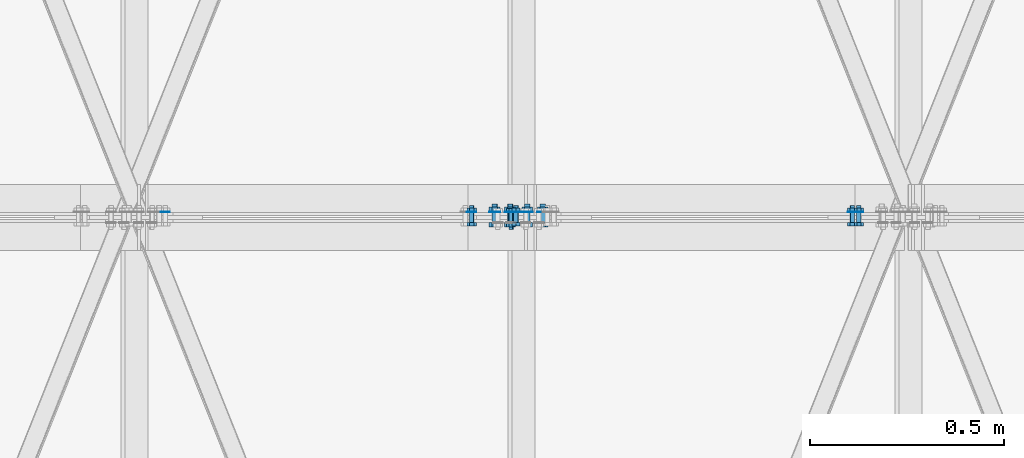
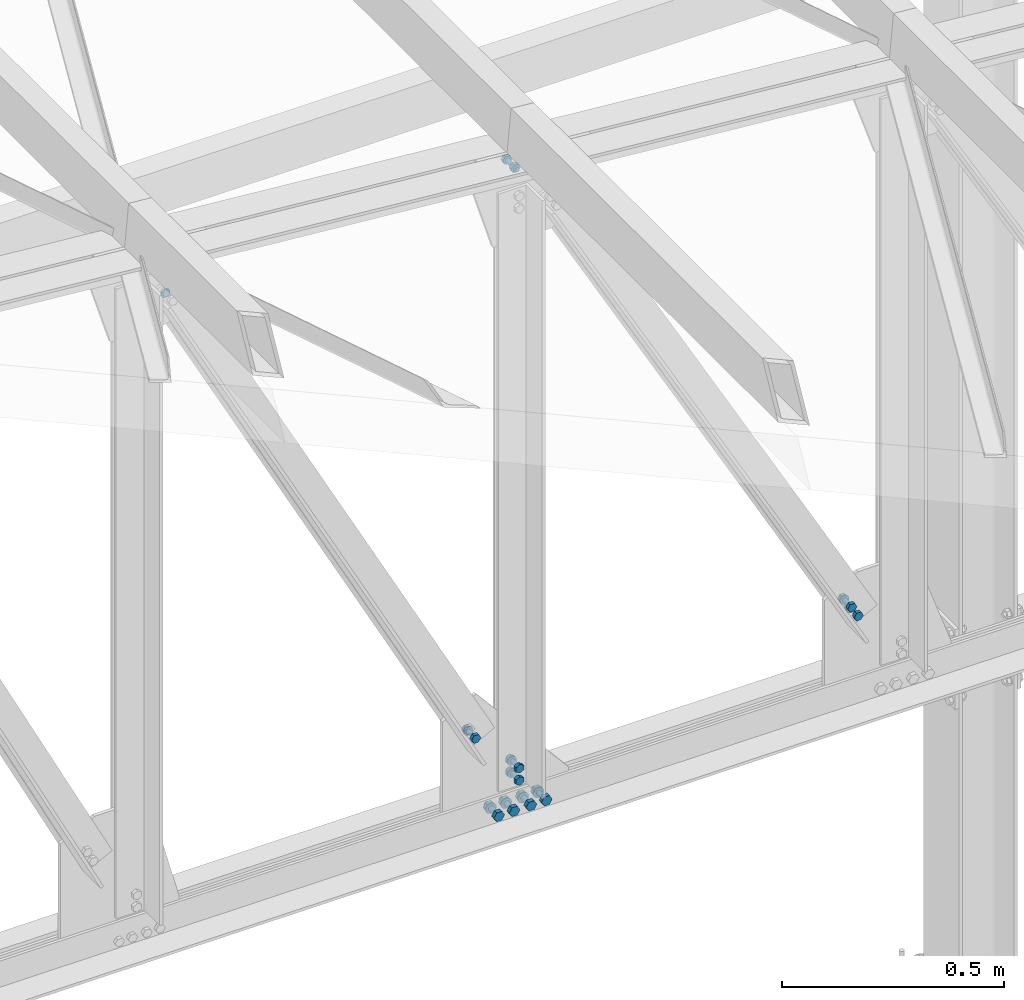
# One storey, part 145 of 251: 40 mechanical fasteners.
"""IFC4 building model written with IfcOpenShell, lengths in metres."""

from ifc_helpers import new_model, si_unit, frame, origin_with_axes, place, context, project, spatial, polyline, outline, extrude, type_object, element, save


model = new_model("IFC4")

# Units and contexts
model_context = context("Model", 3, precision=1e-05, world=origin_with_axes())
ifc_project = project(units=[si_unit("LENGTHUNIT", "METRE"), si_unit("AREAUNIT", "SQUARE_METRE"), si_unit("VOLUMEUNIT", "CUBIC_METRE"), si_unit("MASSUNIT", "GRAM", prefix="KILO"), si_unit("TIMEUNIT", "SECOND"), si_unit("PLANEANGLEUNIT", "RADIAN"), si_unit("SOLIDANGLEUNIT", "STERADIAN"), si_unit("THERMODYNAMICTEMPERATUREUNIT", "DEGREE_CELSIUS")], contexts=[model_context])

# Site, building, storey
placement_1 = place(None, origin_with_axes())
site = spatial("IfcSite", under=ifc_project, at=placement_1, Name="Italia", CompositionType="ELEMENT")
building = spatial("IfcBuilding", under=site, at=placement_1, Name="Deposito", CompositionType="ELEMENT")
storey = spatial("IfcBuildingStorey", under=building, at=placement_1, Name="Storey 0", CompositionType="ELEMENT", Elevation=0.0)

# Mechanical fasteners
mechanical_fastener_type_1 = type_object("IfcMechanicalFastenerType", Name="Reticolare 5", PredefinedType="BOLT")
placement_2 = place(placement_1, origin_with_axes())
mechanical_fastener_1_placement = place(placement_2, origin_with_axes())
element("IfcMechanicalFastener", 1, at=mechanical_fastener_1_placement, inside=storey, type_object=mechanical_fastener_type_1, Name="Reticolare 5", NominalDiameter=0.0139997, context=model_context, shape_type="SweptSolid", body=[
    extrude(outline(polyline([(0.0, 0.0), (-0.0139999, 0.0), (-0.0209999, 0.0121241), (-0.0139999, 0.0242486), (0.0, 0.0242486), (0.00699997, 0.0121241), (0.0, 0.0)])), frame((11.0192, 14.987, 4.99688), z_axis=(0.0, -1.0, 0.0), x_axis=(1.0, 0.0, 0.0)), (0.0, 0.0, 1.0), 0.0112009),
])
mechanical_fastener_type_2 = type_object("IfcMechanicalFastenerType", Name="Reticolare 5", PredefinedType="BOLT")
mechanical_fastener_2_placement = place(placement_2, origin_with_axes())
element("IfcMechanicalFastener", 2, at=mechanical_fastener_2_placement, inside=storey, type_object=mechanical_fastener_type_2, Name="Reticolare 5", NominalDiameter=0.014, context=model_context, shape_type="SweptSolid", body=[
    extrude(outline(polyline([(0.0, 0.0), (-0.000238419, -0.0018115), (-0.000937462, -0.00349998), (-0.0020504, -0.00494957), (-0.00349998, -0.00606203), (-0.00518799, -0.00676155), (-0.00699997, -0.00699997), (-0.00881195, -0.00676155), (-0.0105, -0.00606203), (-0.0119495, -0.00494957), (-0.0130625, -0.00349998), (-0.0137615, -0.0018115), (-0.0139999, 0.0), (-0.0137615, 0.0018115), (-0.0130625, 0.00349998), (-0.0119495, 0.00494957), (-0.0105, 0.00606203), (-0.00881195, 0.00676155), (-0.00699997, 0.00699997), (-0.00518799, 0.00676155), (-0.00349998, 0.00606203), (-0.0020504, 0.00494957), (-0.000937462, 0.00349998), (-0.000238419, 0.0018115), (0.0, 0.0)])), frame((11.0192, 15.034, 5.009), z_axis=(0.0, -1.0, 0.0), x_axis=(1.0, 0.0, 0.0)), (0.0, 0.0, 1.0), 0.0469999),
])
mechanical_fastener_type_3 = type_object("IfcMechanicalFastenerType", Name="Reticolare 5", PredefinedType="BOLT")
mechanical_fastener_3_placement = place(placement_2, origin_with_axes())
element("IfcMechanicalFastener", 3, at=mechanical_fastener_3_placement, inside=storey, type_object=mechanical_fastener_type_3, Name="Reticolare 5", NominalDiameter=0.0139997, context=model_context, shape_type="SweptSolid", body=[
    extrude(outline(polyline([(0.0, 0.0), (-0.0139999, 0.0), (-0.0209999, 0.0121241), (-0.0139999, 0.0242486), (0.0, 0.0242486), (0.00699997, 0.0121241), (0.0, 0.0)])), frame((11.0192, 15.0262, 4.99688), z_axis=(0.0, -1.0, 0.0), x_axis=(1.0, 0.0, 0.0)), (0.0, 0.0, 1.0), 0.0112),
])
mechanical_fastener_type_4 = type_object("IfcMechanicalFastenerType", Name="Reticolare 5", PredefinedType="BOLT")
mechanical_fastener_4_placement = place(placement_2, origin_with_axes())
element("IfcMechanicalFastener", 4, at=mechanical_fastener_4_placement, inside=storey, type_object=mechanical_fastener_type_4, Name="Reticolare 5", NominalDiameter=0.028, context=model_context, shape_type="SweptSolid", body=[
    extrude(outline(polyline([(0.0, 0.0), (-0.000476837, -0.00362349), (-0.00187588, -0.00699997), (-0.0041008, -0.00989962), (-0.00699997, -0.0121245), (-0.0103769, -0.0135231), (-0.0139999, -0.0139999), (-0.0176229, -0.0135231), (-0.0209999, -0.0121245), (-0.0238991, -0.00989962), (-0.026124, -0.00699997), (-0.027523, -0.00362349), (-0.0279999, 0.0), (-0.027523, 0.00362349), (-0.026124, 0.00699997), (-0.0238991, 0.00989962), (-0.0209999, 0.0121245), (-0.0176229, 0.0135231), (-0.0139999, 0.0139999), (-0.0103769, 0.0135231), (-0.00699997, 0.0121245), (-0.0041008, 0.00989962), (-0.00187588, 0.00699997), (-0.000476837, 0.00362349), (0.0, 0.0)])), frame((11.0262, 15.015, 5.009), z_axis=(0.0, -1.0, 0.0), x_axis=(1.0, 0.0, 0.0)), (0.0, 0.0, 1.0), 0.00200081),
])
mechanical_fastener_type_5 = type_object("IfcMechanicalFastenerType", Name="Reticolare 5", PredefinedType="BOLT")
mechanical_fastener_5_placement = place(placement_2, origin_with_axes())
element("IfcMechanicalFastener", 5, at=mechanical_fastener_5_placement, inside=storey, type_object=mechanical_fastener_type_5, Name="Reticolare 5", NominalDiameter=0.0139997, context=model_context, shape_type="SweptSolid", body=[
    extrude(outline(polyline([(0.0, 0.0), (-0.0139999, 0.0), (-0.0209999, 0.0121241), (-0.0139999, 0.0242486), (0.0, 0.0242486), (0.00699997, 0.0121241), (0.0, 0.0)])), frame((10.9792, 14.987, 4.99688), z_axis=(0.0, -1.0, 0.0), x_axis=(1.0, 0.0, 0.0)), (0.0, 0.0, 1.0), 0.0112009),
])
mechanical_fastener_type_6 = type_object("IfcMechanicalFastenerType", Name="Reticolare 5", PredefinedType="BOLT")
mechanical_fastener_6_placement = place(placement_2, origin_with_axes())
element("IfcMechanicalFastener", 6, at=mechanical_fastener_6_placement, inside=storey, type_object=mechanical_fastener_type_6, Name="Reticolare 5", NominalDiameter=0.014, context=model_context, shape_type="SweptSolid", body=[
    extrude(outline(polyline([(0.0, 0.0), (-0.000238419, -0.0018115), (-0.000937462, -0.00349998), (-0.0020504, -0.00494957), (-0.00349998, -0.00606203), (-0.00518799, -0.00676155), (-0.00699997, -0.00699997), (-0.00881195, -0.00676155), (-0.0105, -0.00606203), (-0.0119495, -0.00494957), (-0.0130625, -0.00349998), (-0.0137615, -0.0018115), (-0.0139999, 0.0), (-0.0137615, 0.0018115), (-0.0130625, 0.00349998), (-0.0119495, 0.00494957), (-0.0105, 0.00606203), (-0.00881195, 0.00676155), (-0.00699997, 0.00699997), (-0.00518799, 0.00676155), (-0.00349998, 0.00606203), (-0.0020504, 0.00494957), (-0.000937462, 0.00349998), (-0.000238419, 0.0018115), (0.0, 0.0)])), frame((10.9792, 15.034, 5.009), z_axis=(0.0, -1.0, 0.0), x_axis=(1.0, 0.0, 0.0)), (0.0, 0.0, 1.0), 0.0469999),
])
mechanical_fastener_type_7 = type_object("IfcMechanicalFastenerType", Name="Reticolare 5", PredefinedType="BOLT")
mechanical_fastener_7_placement = place(placement_2, origin_with_axes())
element("IfcMechanicalFastener", 7, at=mechanical_fastener_7_placement, inside=storey, type_object=mechanical_fastener_type_7, Name="Reticolare 5", NominalDiameter=0.0139997, context=model_context, shape_type="SweptSolid", body=[
    extrude(outline(polyline([(0.0, 0.0), (-0.0139999, 0.0), (-0.0209999, 0.0121241), (-0.0139999, 0.0242486), (0.0, 0.0242486), (0.00699997, 0.0121241), (0.0, 0.0)])), frame((10.9792, 15.0262, 4.99688), z_axis=(0.0, -1.0, 0.0), x_axis=(1.0, 0.0, 0.0)), (0.0, 0.0, 1.0), 0.0112),
])
mechanical_fastener_type_8 = type_object("IfcMechanicalFastenerType", Name="Reticolare 5", PredefinedType="BOLT")
mechanical_fastener_8_placement = place(placement_2, origin_with_axes())
element("IfcMechanicalFastener", 8, at=mechanical_fastener_8_placement, inside=storey, type_object=mechanical_fastener_type_8, Name="Reticolare 5", NominalDiameter=0.028, context=model_context, shape_type="SweptSolid", body=[
    extrude(outline(polyline([(0.0, 0.0), (-0.000476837, -0.00362349), (-0.00187588, -0.00699997), (-0.0041008, -0.00989962), (-0.00699997, -0.0121245), (-0.0103769, -0.0135231), (-0.0139999, -0.0139999), (-0.0176229, -0.0135231), (-0.0209999, -0.0121245), (-0.0238991, -0.00989962), (-0.026124, -0.00699997), (-0.027523, -0.00362349), (-0.0279999, 0.0), (-0.027523, 0.00362349), (-0.026124, 0.00699997), (-0.0238991, 0.00989962), (-0.0209999, 0.0121245), (-0.0176229, 0.0135231), (-0.0139999, 0.0139999), (-0.0103769, 0.0135231), (-0.00699997, 0.0121245), (-0.0041008, 0.00989962), (-0.00187588, 0.00699997), (-0.000476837, 0.00362349), (0.0, 0.0)])), frame((10.9862, 15.015, 5.009), z_axis=(0.0, -1.0, 0.0), x_axis=(1.0, 0.0, 0.0)), (0.0, 0.0, 1.0), 0.00200081),
])
mechanical_fastener_type_9 = type_object("IfcMechanicalFastenerType", Name="Reticolare 5", PredefinedType="BOLT")
mechanical_fastener_9_placement = place(placement_2, origin_with_axes())
element("IfcMechanicalFastener", 9, at=mechanical_fastener_9_placement, inside=storey, type_object=mechanical_fastener_type_9, Name="Reticolare 5", NominalDiameter=0.0139997, context=model_context, shape_type="SweptSolid", body=[
    extrude(outline(polyline([(0.0, 0.0), (-0.0139999, 0.0), (-0.0209999, 0.0121241), (-0.0139999, 0.0242486), (0.0, 0.0242486), (0.00699997, 0.0121241), (0.0, 0.0)])), frame((11.0632, 14.987, 4.99688), z_axis=(0.0, -1.0, 0.0), x_axis=(1.0, 0.0, 0.0)), (0.0, 0.0, 1.0), 0.0112009),
])
mechanical_fastener_type_10 = type_object("IfcMechanicalFastenerType", Name="Reticolare 5", PredefinedType="BOLT")
mechanical_fastener_10_placement = place(placement_2, origin_with_axes())
element("IfcMechanicalFastener", 10, at=mechanical_fastener_10_placement, inside=storey, type_object=mechanical_fastener_type_10, Name="Reticolare 5", NominalDiameter=0.014, context=model_context, shape_type="SweptSolid", body=[
    extrude(outline(polyline([(0.0, 0.0), (-0.000238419, -0.0018115), (-0.000937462, -0.00349998), (-0.0020504, -0.00494957), (-0.00349998, -0.00606203), (-0.00518799, -0.00676155), (-0.00699997, -0.00699997), (-0.00881195, -0.00676155), (-0.0105, -0.00606203), (-0.0119495, -0.00494957), (-0.0130625, -0.00349998), (-0.0137615, -0.0018115), (-0.0139999, 0.0), (-0.0137615, 0.0018115), (-0.0130625, 0.00349998), (-0.0119495, 0.00494957), (-0.0105, 0.00606203), (-0.00881195, 0.00676155), (-0.00699997, 0.00699997), (-0.00518799, 0.00676155), (-0.00349998, 0.00606203), (-0.0020504, 0.00494957), (-0.000937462, 0.00349998), (-0.000238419, 0.0018115), (0.0, 0.0)])), frame((11.0632, 15.034, 5.009), z_axis=(0.0, -1.0, 0.0), x_axis=(1.0, 0.0, 0.0)), (0.0, 0.0, 1.0), 0.0469999),
])
mechanical_fastener_type_11 = type_object("IfcMechanicalFastenerType", Name="Reticolare 5", PredefinedType="BOLT")
mechanical_fastener_11_placement = place(placement_2, origin_with_axes())
element("IfcMechanicalFastener", 11, at=mechanical_fastener_11_placement, inside=storey, type_object=mechanical_fastener_type_11, Name="Reticolare 5", NominalDiameter=0.0139997, context=model_context, shape_type="SweptSolid", body=[
    extrude(outline(polyline([(0.0, 0.0), (-0.0139999, 0.0), (-0.0209999, 0.0121241), (-0.0139999, 0.0242486), (0.0, 0.0242486), (0.00699997, 0.0121241), (0.0, 0.0)])), frame((11.0632, 15.0262, 4.99688), z_axis=(0.0, -1.0, 0.0), x_axis=(1.0, 0.0, 0.0)), (0.0, 0.0, 1.0), 0.0112),
])
mechanical_fastener_type_12 = type_object("IfcMechanicalFastenerType", Name="Reticolare 5", PredefinedType="BOLT")
mechanical_fastener_12_placement = place(placement_2, origin_with_axes())
element("IfcMechanicalFastener", 12, at=mechanical_fastener_12_placement, inside=storey, type_object=mechanical_fastener_type_12, Name="Reticolare 5", NominalDiameter=0.028, context=model_context, shape_type="SweptSolid", body=[
    extrude(outline(polyline([(0.0, 0.0), (-0.000476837, -0.00362349), (-0.00187588, -0.00699997), (-0.0041008, -0.00989962), (-0.00699997, -0.0121245), (-0.0103769, -0.0135231), (-0.0139999, -0.0139999), (-0.0176229, -0.0135231), (-0.0209999, -0.0121245), (-0.0238991, -0.00989962), (-0.026124, -0.00699997), (-0.027523, -0.00362349), (-0.0279999, 0.0), (-0.027523, 0.00362349), (-0.026124, 0.00699997), (-0.0238991, 0.00989962), (-0.0209999, 0.0121245), (-0.0176229, 0.0135231), (-0.0139999, 0.0139999), (-0.0103769, 0.0135231), (-0.00699997, 0.0121245), (-0.0041008, 0.00989962), (-0.00187588, 0.00699997), (-0.000476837, 0.00362349), (0.0, 0.0)])), frame((11.0702, 15.015, 5.009), z_axis=(0.0, -1.0, 0.0), x_axis=(1.0, 0.0, 0.0)), (0.0, 0.0, 1.0), 0.00200081),
])
mechanical_fastener_type_13 = type_object("IfcMechanicalFastenerType", Name="Reticolare 5", PredefinedType="BOLT")
mechanical_fastener_13_placement = place(placement_2, origin_with_axes())
element("IfcMechanicalFastener", 13, at=mechanical_fastener_13_placement, inside=storey, type_object=mechanical_fastener_type_13, Name="Reticolare 5", NominalDiameter=0.0139997, context=model_context, shape_type="SweptSolid", body=[
    extrude(outline(polyline([(0.0, 0.0), (-0.0139999, 0.0), (-0.0209999, 0.0121241), (-0.0139999, 0.0242486), (0.0, 0.0242486), (0.00699997, 0.0121241), (0.0, 0.0)])), frame((11.1032, 14.987, 4.99688), z_axis=(0.0, -1.0, 0.0), x_axis=(1.0, 0.0, 0.0)), (0.0, 0.0, 1.0), 0.0112009),
])
mechanical_fastener_type_14 = type_object("IfcMechanicalFastenerType", Name="Reticolare 5", PredefinedType="BOLT")
mechanical_fastener_14_placement = place(placement_2, origin_with_axes())
element("IfcMechanicalFastener", 14, at=mechanical_fastener_14_placement, inside=storey, type_object=mechanical_fastener_type_14, Name="Reticolare 5", NominalDiameter=0.014, context=model_context, shape_type="SweptSolid", body=[
    extrude(outline(polyline([(0.0, 0.0), (-0.000238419, -0.0018115), (-0.000937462, -0.00349998), (-0.0020504, -0.00494957), (-0.00349998, -0.00606203), (-0.00518799, -0.00676155), (-0.00699997, -0.00699997), (-0.00881195, -0.00676155), (-0.0105, -0.00606203), (-0.0119495, -0.00494957), (-0.0130625, -0.00349998), (-0.0137615, -0.0018115), (-0.0139999, 0.0), (-0.0137615, 0.0018115), (-0.0130625, 0.00349998), (-0.0119495, 0.00494957), (-0.0105, 0.00606203), (-0.00881195, 0.00676155), (-0.00699997, 0.00699997), (-0.00518799, 0.00676155), (-0.00349998, 0.00606203), (-0.0020504, 0.00494957), (-0.000937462, 0.00349998), (-0.000238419, 0.0018115), (0.0, 0.0)])), frame((11.1032, 15.034, 5.009), z_axis=(0.0, -1.0, 0.0), x_axis=(1.0, 0.0, 0.0)), (0.0, 0.0, 1.0), 0.0469999),
])
mechanical_fastener_type_15 = type_object("IfcMechanicalFastenerType", Name="Reticolare 5", PredefinedType="BOLT")
mechanical_fastener_15_placement = place(placement_2, origin_with_axes())
element("IfcMechanicalFastener", 15, at=mechanical_fastener_15_placement, inside=storey, type_object=mechanical_fastener_type_15, Name="Reticolare 5", NominalDiameter=0.0139997, context=model_context, shape_type="SweptSolid", body=[
    extrude(outline(polyline([(0.0, 0.0), (-0.0139999, 0.0), (-0.0209999, 0.0121241), (-0.0139999, 0.0242486), (0.0, 0.0242486), (0.00699997, 0.0121241), (0.0, 0.0)])), frame((11.1032, 15.0262, 4.99688), z_axis=(0.0, -1.0, 0.0), x_axis=(1.0, 0.0, 0.0)), (0.0, 0.0, 1.0), 0.0112),
])
mechanical_fastener_type_16 = type_object("IfcMechanicalFastenerType", Name="Reticolare 5", PredefinedType="BOLT")
mechanical_fastener_16_placement = place(placement_2, origin_with_axes())
element("IfcMechanicalFastener", 16, at=mechanical_fastener_16_placement, inside=storey, type_object=mechanical_fastener_type_16, Name="Reticolare 5", NominalDiameter=0.028, context=model_context, shape_type="SweptSolid", body=[
    extrude(outline(polyline([(0.0, 0.0), (-0.000476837, -0.00362349), (-0.00187588, -0.00699997), (-0.0041008, -0.00989962), (-0.00699997, -0.0121245), (-0.0103769, -0.0135231), (-0.0139999, -0.0139999), (-0.0176229, -0.0135231), (-0.0209999, -0.0121245), (-0.0238991, -0.00989962), (-0.026124, -0.00699997), (-0.027523, -0.00362349), (-0.0279999, 0.0), (-0.027523, 0.00362349), (-0.026124, 0.00699997), (-0.0238991, 0.00989962), (-0.0209999, 0.0121245), (-0.0176229, 0.0135231), (-0.0139999, 0.0139999), (-0.0103769, 0.0135231), (-0.00699997, 0.0121245), (-0.0041008, 0.00989962), (-0.00187588, 0.00699997), (-0.000476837, 0.00362349), (0.0, 0.0)])), frame((11.1102, 15.015, 5.009), z_axis=(0.0, -1.0, 0.0), x_axis=(1.0, 0.0, 0.0)), (0.0, 0.0, 1.0), 0.00200081),
])
mechanical_fastener_type_17 = type_object("IfcMechanicalFastenerType", Name="Reticolare 5", PredefinedType="BOLT")
mechanical_fastener_17_placement = place(placement_2, origin_with_axes())
element("IfcMechanicalFastener", 17, at=mechanical_fastener_17_placement, inside=storey, type_object=mechanical_fastener_type_17, Name="Reticolare 5", NominalDiameter=0.0119999, context=model_context, shape_type="SweptSolid", body=[
    extrude(outline(polyline([(0.0, 0.0), (0.0, -0.0120001), (-0.0103922, -0.0180001), (-0.0207844, -0.0120001), (-0.0207844, 0.0), (-0.0103922, 0.00600004), (0.0, 0.0)])), frame((11.0376, 14.987, 5.09253), z_axis=(0.0, -1.0, 0.0), x_axis=(1.0, 0.0, 0.0)), (0.0, 0.0, 1.0), 0.00960064),
])
mechanical_fastener_type_18 = type_object("IfcMechanicalFastenerType", Name="Reticolare 5", PredefinedType="BOLT")
mechanical_fastener_18_placement = place(placement_2, origin_with_axes())
element("IfcMechanicalFastener", 18, at=mechanical_fastener_18_placement, inside=storey, type_object=mechanical_fastener_type_18, Name="Reticolare 5", NominalDiameter=0.012, context=model_context, shape_type="SweptSolid", body=[
    extrude(outline(polyline([(0.0, 0.0), (-0.000204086, -0.00155306), (-0.000802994, -0.00299978), (-0.00175667, -0.00424242), (-0.00299931, -0.00519609), (-0.00444698, -0.00579548), (-0.00599957, -0.00600004), (-0.00755215, -0.00579548), (-0.00899982, -0.00519609), (-0.0102425, -0.00424242), (-0.0111961, -0.00299978), (-0.011795, -0.00155306), (-0.0119991, 0.0), (-0.011795, 0.00155306), (-0.0111961, 0.00299978), (-0.0102425, 0.00424242), (-0.00899982, 0.00519609), (-0.00755215, 0.00579548), (-0.00599957, 0.00600004), (-0.00444698, 0.00579548), (-0.00299931, 0.00519609), (-0.00175667, 0.00424242), (-0.000802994, 0.00299978), (-0.000204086, 0.00155306), (0.0, 0.0)])), frame((11.0332, 15.031, 5.08653), z_axis=(0.0, -1.0, 0.0), x_axis=(1.0, 0.0, 0.0)), (0.0, 0.0, 1.0), 0.0439997),
])
mechanical_fastener_type_19 = type_object("IfcMechanicalFastenerType", Name="Reticolare 5", PredefinedType="BOLT")
mechanical_fastener_19_placement = place(placement_2, origin_with_axes())
element("IfcMechanicalFastener", 19, at=mechanical_fastener_19_placement, inside=storey, type_object=mechanical_fastener_type_19, Name="Reticolare 5", NominalDiameter=0.0119999, context=model_context, shape_type="SweptSolid", body=[
    extrude(outline(polyline([(0.0, 0.0), (0.0, -0.0120001), (-0.0103922, -0.0180001), (-0.0207844, -0.0120001), (-0.0207844, 0.0), (-0.0103922, 0.00600004), (0.0, 0.0)])), frame((11.0376, 15.0246, 5.09253), z_axis=(0.0, -1.0, 0.0), x_axis=(1.0, 0.0, 0.0)), (0.0, 0.0, 1.0), 0.00959969),
])
mechanical_fastener_type_20 = type_object("IfcMechanicalFastenerType", Name="Reticolare 5", PredefinedType="BOLT")
mechanical_fastener_20_placement = place(placement_2, origin_with_axes())
element("IfcMechanicalFastener", 20, at=mechanical_fastener_20_placement, inside=storey, type_object=mechanical_fastener_type_20, Name="Reticolare 5", NominalDiameter=0.024, context=model_context, shape_type="SweptSolid", body=[
    extrude(outline(polyline([(0.0, 0.0), (-0.000409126, -0.00310564), (-0.00160789, -0.00600004), (-0.00351524, -0.00848532), (-0.00600052, -0.0103922), (-0.00889397, -0.011591), (-0.0120001, -0.0120001), (-0.0151062, -0.011591), (-0.0179996, -0.0103922), (-0.0204849, -0.00848532), (-0.0223923, -0.00600004), (-0.023591, -0.00310564), (-0.0240002, 0.0), (-0.023591, 0.00310564), (-0.0223923, 0.00600004), (-0.0204849, 0.00848532), (-0.0179996, 0.0103922), (-0.0151062, 0.011591), (-0.0120001, 0.0120001), (-0.00889397, 0.011591), (-0.00600052, 0.0103922), (-0.00351524, 0.00848532), (-0.00160789, 0.00600004), (-0.000409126, 0.00310564), (0.0, 0.0)])), frame((11.0392, 15.015, 5.08653), z_axis=(0.0, -1.0, 0.0), x_axis=(1.0, 0.0, 0.0)), (0.0, 0.0, 1.0), 0.00200081),
])
mechanical_fastener_type_21 = type_object("IfcMechanicalFastenerType", Name="Reticolare 5", PredefinedType="BOLT")
mechanical_fastener_21_placement = place(placement_2, origin_with_axes())
element("IfcMechanicalFastener", 21, at=mechanical_fastener_21_placement, inside=storey, type_object=mechanical_fastener_type_21, Name="Reticolare 5", NominalDiameter=0.0119999, context=model_context, shape_type="SweptSolid", body=[
    extrude(outline(polyline([(0.0, 0.0), (0.0, -0.0120001), (-0.0103922, -0.0180001), (-0.0207844, -0.0120001), (-0.0207844, 0.0), (-0.0103922, 0.00600004), (0.0, 0.0)])), frame((11.0376, 14.987, 5.12653), z_axis=(0.0, -1.0, 0.0), x_axis=(1.0, 0.0, 0.0)), (0.0, 0.0, 1.0), 0.00960064),
])
mechanical_fastener_type_22 = type_object("IfcMechanicalFastenerType", Name="Reticolare 5", PredefinedType="BOLT")
mechanical_fastener_22_placement = place(placement_2, origin_with_axes())
element("IfcMechanicalFastener", 22, at=mechanical_fastener_22_placement, inside=storey, type_object=mechanical_fastener_type_22, Name="Reticolare 5", NominalDiameter=0.012, context=model_context, shape_type="SweptSolid", body=[
    extrude(outline(polyline([(0.0, 0.0), (-0.000204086, -0.00155306), (-0.000802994, -0.00299978), (-0.00175667, -0.00424242), (-0.00299931, -0.00519609), (-0.00444698, -0.00579548), (-0.00599957, -0.00600004), (-0.00755215, -0.00579548), (-0.00899982, -0.00519609), (-0.0102425, -0.00424242), (-0.0111961, -0.00299978), (-0.011795, -0.00155306), (-0.0119991, 0.0), (-0.011795, 0.00155306), (-0.0111961, 0.00299978), (-0.0102425, 0.00424242), (-0.00899982, 0.00519609), (-0.00755215, 0.00579548), (-0.00599957, 0.00600004), (-0.00444698, 0.00579548), (-0.00299931, 0.00519609), (-0.00175667, 0.00424242), (-0.000802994, 0.00299978), (-0.000204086, 0.00155306), (0.0, 0.0)])), frame((11.0332, 15.031, 5.12053), z_axis=(0.0, -1.0, 0.0), x_axis=(1.0, 0.0, 0.0)), (0.0, 0.0, 1.0), 0.0439997),
])
mechanical_fastener_type_23 = type_object("IfcMechanicalFastenerType", Name="Reticolare 5", PredefinedType="BOLT")
mechanical_fastener_23_placement = place(placement_2, origin_with_axes())
element("IfcMechanicalFastener", 23, at=mechanical_fastener_23_placement, inside=storey, type_object=mechanical_fastener_type_23, Name="Reticolare 5", NominalDiameter=0.0119999, context=model_context, shape_type="SweptSolid", body=[
    extrude(outline(polyline([(0.0, 0.0), (0.0, -0.0120001), (-0.0103922, -0.0180001), (-0.0207844, -0.0120001), (-0.0207844, 0.0), (-0.0103922, 0.00600004), (0.0, 0.0)])), frame((11.0376, 15.0246, 5.12653), z_axis=(0.0, -1.0, 0.0), x_axis=(1.0, 0.0, 0.0)), (0.0, 0.0, 1.0), 0.00959969),
])
mechanical_fastener_type_24 = type_object("IfcMechanicalFastenerType", Name="Reticolare 5", PredefinedType="BOLT")
mechanical_fastener_24_placement = place(placement_2, origin_with_axes())
element("IfcMechanicalFastener", 24, at=mechanical_fastener_24_placement, inside=storey, type_object=mechanical_fastener_type_24, Name="Reticolare 5", NominalDiameter=0.024, context=model_context, shape_type="SweptSolid", body=[
    extrude(outline(polyline([(0.0, 0.0), (-0.000409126, -0.00310564), (-0.00160789, -0.00600004), (-0.00351524, -0.00848532), (-0.00600052, -0.0103922), (-0.00889397, -0.011591), (-0.0120001, -0.0120001), (-0.0151062, -0.011591), (-0.0179996, -0.0103922), (-0.0204849, -0.00848532), (-0.0223923, -0.00600004), (-0.023591, -0.00310564), (-0.0240002, 0.0), (-0.023591, 0.00310564), (-0.0223923, 0.00600004), (-0.0204849, 0.00848532), (-0.0179996, 0.0103922), (-0.0151062, 0.011591), (-0.0120001, 0.0120001), (-0.00889397, 0.011591), (-0.00600052, 0.0103922), (-0.00351524, 0.00848532), (-0.00160789, 0.00600004), (-0.000409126, 0.00310564), (0.0, 0.0)])), frame((11.0392, 15.015, 5.12053), z_axis=(0.0, -1.0, 0.0), x_axis=(1.0, 0.0, 0.0)), (0.0, 0.0, 1.0), 0.00200081),
])
mechanical_fastener_type_25 = type_object("IfcMechanicalFastenerType", Name="Reticolare 5", PredefinedType="BOLT")
mechanical_fastener_25_placement = place(placement_2, origin_with_axes())
element("IfcMechanicalFastener", 25, at=mechanical_fastener_25_placement, inside=storey, type_object=mechanical_fastener_type_25, Name="Reticolare 5", NominalDiameter=0.0119996, context=model_context, shape_type="SweptSolid", body=[
    extrude(outline(polyline([(0.0, 0.0), (-0.00563812, 0.0105929), (0.000716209, 0.0207725), (0.0127087, 0.020359), (0.0183477, 0.0097661), (0.0119934, -0.000413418), (0.0, 0.0)])), frame((10.9069, 14.987, 5.23209), z_axis=(0.0, -1.0, 0.0), x_axis=(1.0, 0.0, 0.0)), (0.0, 0.0, 1.0), 0.00960064),
])
mechanical_fastener_type_26 = type_object("IfcMechanicalFastenerType", Name="Reticolare 5", PredefinedType="BOLT")
mechanical_fastener_26_placement = place(placement_2, origin_with_axes())
element("IfcMechanicalFastener", 26, at=mechanical_fastener_26_placement, inside=storey, type_object=mechanical_fastener_type_26, Name="Reticolare 5", NominalDiameter=0.012, context=model_context, shape_type="SweptSolid", body=[
    extrude(outline(polyline([(0.0, 0.0), (-0.000204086, -0.00155306), (-0.000802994, -0.00299978), (-0.00175667, -0.00424242), (-0.00299931, -0.00519609), (-0.00444698, -0.00579548), (-0.00599957, -0.00600004), (-0.00755215, -0.00579548), (-0.00899982, -0.00519609), (-0.0102425, -0.00424242), (-0.0111961, -0.00299978), (-0.011795, -0.00155306), (-0.0119991, 0.0), (-0.011795, 0.00155306), (-0.0111961, 0.00299978), (-0.0102425, 0.00424242), (-0.00899982, 0.00519609), (-0.00755215, 0.00579548), (-0.00599957, 0.00600004), (-0.00444698, 0.00579548), (-0.00299931, 0.00519609), (-0.00175667, 0.00424242), (-0.000802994, 0.00299978), (-0.000204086, 0.00155306), (0.0, 0.0)])), frame((10.9192, 15.031, 5.24226), z_axis=(0.0, -1.0, 0.0), x_axis=(1.0, 0.0, 0.0)), (0.0, 0.0, 1.0), 0.0439997),
])
mechanical_fastener_type_27 = type_object("IfcMechanicalFastenerType", Name="Reticolare 5", PredefinedType="BOLT")
mechanical_fastener_27_placement = place(placement_2, origin_with_axes())
element("IfcMechanicalFastener", 27, at=mechanical_fastener_27_placement, inside=storey, type_object=mechanical_fastener_type_27, Name="Reticolare 5", NominalDiameter=0.0119996, context=model_context, shape_type="SweptSolid", body=[
    extrude(outline(polyline([(0.0, 0.0), (-0.00563812, 0.0105929), (0.000716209, 0.0207725), (0.0127087, 0.020359), (0.0183477, 0.0097661), (0.0119934, -0.000413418), (0.0, 0.0)])), frame((10.9069, 15.0246, 5.23209), z_axis=(0.0, -1.0, 0.0), x_axis=(1.0, 0.0, 0.0)), (0.0, 0.0, 1.0), 0.00959969),
])
mechanical_fastener_type_28 = type_object("IfcMechanicalFastenerType", Name="Reticolare 5", PredefinedType="BOLT")
mechanical_fastener_28_placement = place(placement_2, origin_with_axes())
element("IfcMechanicalFastener", 28, at=mechanical_fastener_28_placement, inside=storey, type_object=mechanical_fastener_type_28, Name="Reticolare 5", NominalDiameter=0.024, context=model_context, shape_type="SweptSolid", body=[
    extrude(outline(polyline([(0.0, 0.0), (-0.000409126, -0.00310564), (-0.00160789, -0.00600004), (-0.00351524, -0.00848532), (-0.00600052, -0.0103922), (-0.00889397, -0.011591), (-0.0120001, -0.0120001), (-0.0151062, -0.011591), (-0.0179996, -0.0103922), (-0.0204849, -0.00848532), (-0.0223923, -0.00600004), (-0.023591, -0.00310564), (-0.0240002, 0.0), (-0.023591, 0.00310564), (-0.0223923, 0.00600004), (-0.0204849, 0.00848532), (-0.0179996, 0.0103922), (-0.0151062, 0.011591), (-0.0120001, 0.0120001), (-0.00889397, 0.011591), (-0.00600052, 0.0103922), (-0.00351524, 0.00848532), (-0.00160789, 0.00600004), (-0.000409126, 0.00310564), (0.0, 0.0)])), frame((10.9252, 15.015, 5.24226), z_axis=(0.0, -1.0, 0.0), x_axis=(1.0, 0.0, 0.0)), (0.0, 0.0, 1.0), 0.00200081),
])
mechanical_fastener_type_29 = type_object("IfcMechanicalFastenerType", Name="Reticolare 5", PredefinedType="BOLT")
mechanical_fastener_29_placement = place(placement_2, origin_with_axes())
element("IfcMechanicalFastener", 29, at=mechanical_fastener_29_placement, inside=storey, type_object=mechanical_fastener_type_29, Name="Reticolare 5", NominalDiameter=0.0119994, context=model_context, shape_type="SweptSolid", body=[
    extrude(outline(polyline([(0.0, 0.0), (-0.00584888, 0.0104775), (0.000300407, 0.0207825), (0.0122986, 0.0206094), (0.0181484, 0.0101314), (0.0119991, -0.000173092), (0.0, 0.0)])), frame((11.9034, 14.987, 5.22057), z_axis=(0.0, -1.0, 0.0), x_axis=(1.0, 0.0, 0.0)), (0.0, 0.0, 1.0), 0.00960064),
])
mechanical_fastener_type_30 = type_object("IfcMechanicalFastenerType", Name="Reticolare 5", PredefinedType="BOLT")
mechanical_fastener_30_placement = place(placement_2, origin_with_axes())
element("IfcMechanicalFastener", 30, at=mechanical_fastener_30_placement, inside=storey, type_object=mechanical_fastener_type_30, Name="Reticolare 5", NominalDiameter=0.012, context=model_context, shape_type="SweptSolid", body=[
    extrude(outline(polyline([(0.0, 0.0), (-0.000204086, -0.00155306), (-0.000802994, -0.00299978), (-0.00175667, -0.00424242), (-0.00299931, -0.00519609), (-0.00444698, -0.00579548), (-0.00599957, -0.00600004), (-0.00755215, -0.00579548), (-0.00899982, -0.00519609), (-0.0102425, -0.00424242), (-0.0111961, -0.00299978), (-0.011795, -0.00155306), (-0.0119991, 0.0), (-0.011795, 0.00155306), (-0.0111961, 0.00299978), (-0.0102425, 0.00424242), (-0.00899982, 0.00519609), (-0.00755215, 0.00579548), (-0.00599957, 0.00600004), (-0.00444698, 0.00579548), (-0.00299931, 0.00519609), (-0.00175667, 0.00424242), (-0.000802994, 0.00299978), (-0.000204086, 0.00155306), (0.0, 0.0)])), frame((11.9156, 15.031, 5.23087), z_axis=(0.0, -1.0, 0.0), x_axis=(1.0, 0.0, 0.0)), (0.0, 0.0, 1.0), 0.0439997),
])
mechanical_fastener_type_31 = type_object("IfcMechanicalFastenerType", Name="Reticolare 5", PredefinedType="BOLT")
mechanical_fastener_31_placement = place(placement_2, origin_with_axes())
element("IfcMechanicalFastener", 31, at=mechanical_fastener_31_placement, inside=storey, type_object=mechanical_fastener_type_31, Name="Reticolare 5", NominalDiameter=0.0119994, context=model_context, shape_type="SweptSolid", body=[
    extrude(outline(polyline([(0.0, 0.0), (-0.00584888, 0.0104775), (0.000300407, 0.0207825), (0.0122986, 0.0206094), (0.0181484, 0.0101314), (0.0119991, -0.000173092), (0.0, 0.0)])), frame((11.9034, 15.0246, 5.22057), z_axis=(0.0, -1.0, 0.0), x_axis=(1.0, 0.0, 0.0)), (0.0, 0.0, 1.0), 0.00959969),
])
mechanical_fastener_type_32 = type_object("IfcMechanicalFastenerType", Name="Reticolare 5", PredefinedType="BOLT")
mechanical_fastener_32_placement = place(placement_2, origin_with_axes())
element("IfcMechanicalFastener", 32, at=mechanical_fastener_32_placement, inside=storey, type_object=mechanical_fastener_type_32, Name="Reticolare 5", NominalDiameter=0.024, context=model_context, shape_type="SweptSolid", body=[
    extrude(outline(polyline([(0.0, 0.0), (-0.000409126, -0.00310564), (-0.00160789, -0.00600004), (-0.00351524, -0.00848532), (-0.00600052, -0.0103922), (-0.00889397, -0.011591), (-0.0120001, -0.0120001), (-0.0151062, -0.011591), (-0.0179996, -0.0103922), (-0.0204849, -0.00848532), (-0.0223923, -0.00600004), (-0.023591, -0.00310564), (-0.0240002, 0.0), (-0.023591, 0.00310564), (-0.0223923, 0.00600004), (-0.0204849, 0.00848532), (-0.0179996, 0.0103922), (-0.0151062, 0.011591), (-0.0120001, 0.0120001), (-0.00889397, 0.011591), (-0.00600052, 0.0103922), (-0.00351524, 0.00848532), (-0.00160789, 0.00600004), (-0.000409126, 0.00310564), (0.0, 0.0)])), frame((11.9216, 15.015, 5.23087), z_axis=(0.0, -1.0, 0.0), x_axis=(1.0, 0.0, 0.0)), (0.0, 0.0, 1.0), 0.00200081),
])
mechanical_fastener_type_33 = type_object("IfcMechanicalFastenerType", Name="Reticolare 5", PredefinedType="BOLT")
mechanical_fastener_33_placement = place(placement_2, origin_with_axes())
element("IfcMechanicalFastener", 33, at=mechanical_fastener_33_placement, inside=storey, type_object=mechanical_fastener_type_33, Name="Reticolare 5", NominalDiameter=0.0119994, context=model_context, shape_type="SweptSolid", body=[
    extrude(outline(polyline([(0.0, 0.0), (-0.00584984, 0.0104775), (0.000299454, 0.0207825), (0.0122986, 0.0206094), (0.0181475, 0.0101314), (0.0119982, -0.000173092), (0.0, 0.0)])), frame((11.8868, 14.987, 5.25025), z_axis=(0.0, -1.0, 0.0), x_axis=(1.0, 0.0, 0.0)), (0.0, 0.0, 1.0), 0.00960064),
])
mechanical_fastener_type_34 = type_object("IfcMechanicalFastenerType", Name="Reticolare 5", PredefinedType="BOLT")
mechanical_fastener_34_placement = place(placement_2, origin_with_axes())
element("IfcMechanicalFastener", 34, at=mechanical_fastener_34_placement, inside=storey, type_object=mechanical_fastener_type_34, Name="Reticolare 5", NominalDiameter=0.012, context=model_context, shape_type="SweptSolid", body=[
    extrude(outline(polyline([(0.0, 0.0), (-0.000204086, -0.00155306), (-0.000802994, -0.00299978), (-0.00175667, -0.00424242), (-0.00299931, -0.00519609), (-0.00444698, -0.00579548), (-0.00599957, -0.00600004), (-0.00755215, -0.00579548), (-0.00899982, -0.00519609), (-0.0102425, -0.00424242), (-0.0111961, -0.00299978), (-0.011795, -0.00155306), (-0.0119991, 0.0), (-0.011795, 0.00155306), (-0.0111961, 0.00299978), (-0.0102425, 0.00424242), (-0.00899982, 0.00519609), (-0.00755215, 0.00579548), (-0.00599957, 0.00600004), (-0.00444698, 0.00579548), (-0.00299931, 0.00519609), (-0.00175667, 0.00424242), (-0.000802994, 0.00299978), (-0.000204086, 0.00155306), (0.0, 0.0)])), frame((11.899, 15.031, 5.26056), z_axis=(0.0, -1.0, 0.0), x_axis=(1.0, 0.0, 0.0)), (0.0, 0.0, 1.0), 0.0439997),
])
mechanical_fastener_type_35 = type_object("IfcMechanicalFastenerType", Name="Reticolare 5", PredefinedType="BOLT")
mechanical_fastener_35_placement = place(placement_2, origin_with_axes())
element("IfcMechanicalFastener", 35, at=mechanical_fastener_35_placement, inside=storey, type_object=mechanical_fastener_type_35, Name="Reticolare 5", NominalDiameter=0.0119994, context=model_context, shape_type="SweptSolid", body=[
    extrude(outline(polyline([(0.0, 0.0), (-0.00584984, 0.0104775), (0.000299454, 0.0207825), (0.0122986, 0.0206094), (0.0181475, 0.0101314), (0.0119982, -0.000173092), (0.0, 0.0)])), frame((11.8868, 15.0246, 5.25025), z_axis=(0.0, -1.0, 0.0), x_axis=(1.0, 0.0, 0.0)), (0.0, 0.0, 1.0), 0.00959969),
])
mechanical_fastener_type_36 = type_object("IfcMechanicalFastenerType", Name="Reticolare 5", PredefinedType="BOLT")
mechanical_fastener_36_placement = place(placement_2, origin_with_axes())
element("IfcMechanicalFastener", 36, at=mechanical_fastener_36_placement, inside=storey, type_object=mechanical_fastener_type_36, Name="Reticolare 5", NominalDiameter=0.024, context=model_context, shape_type="SweptSolid", body=[
    extrude(outline(polyline([(0.0, 0.0), (-0.000409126, -0.00310564), (-0.00160789, -0.00600004), (-0.00351524, -0.00848532), (-0.00600052, -0.0103922), (-0.00889397, -0.011591), (-0.0120001, -0.0120001), (-0.0151062, -0.011591), (-0.0179996, -0.0103922), (-0.0204849, -0.00848532), (-0.0223923, -0.00600004), (-0.023591, -0.00310564), (-0.0240002, 0.0), (-0.023591, 0.00310564), (-0.0223923, 0.00600004), (-0.0204849, 0.00848532), (-0.0179996, 0.0103922), (-0.0151062, 0.011591), (-0.0120001, 0.0120001), (-0.00889397, 0.011591), (-0.00600052, 0.0103922), (-0.00351524, 0.00848532), (-0.00160789, 0.00600004), (-0.000409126, 0.00310564), (0.0, 0.0)])), frame((11.905, 15.015, 5.26056), z_axis=(0.0, -1.0, 0.0), x_axis=(1.0, 0.0, 0.0)), (0.0, 0.0, 1.0), 0.00200081),
])
mechanical_fastener_type_37 = type_object("IfcMechanicalFastenerType", Name="Reticolare 5", PredefinedType="BOLT")
mechanical_fastener_37_placement = place(placement_2, origin_with_axes())
element("IfcMechanicalFastener", 37, at=mechanical_fastener_37_placement, inside=storey, type_object=mechanical_fastener_type_37, Name="Reticolare 5", NominalDiameter=0.0119996, context=model_context, shape_type="SweptSolid", body=[
    extrude(outline(polyline([(0.0, 0.0), (0.0119543, 0.00104618), (0.018837, -0.00878382), (0.0137653, -0.0196595), (0.00181103, -0.0207052), (-0.00507164, -0.0108757), (0.0, 0.0)])), frame((11.0216, 15.013, 6.78891), z_axis=(0.0, 1.0, 0.0), x_axis=(-1.0, 0.0, 0.0)), (0.0, 0.0, 1.0), 0.00960064),
])
mechanical_fastener_type_38 = type_object("IfcMechanicalFastenerType", Name="Reticolare 5", PredefinedType="BOLT")
mechanical_fastener_38_placement = place(placement_2, origin_with_axes())
element("IfcMechanicalFastener", 38, at=mechanical_fastener_38_placement, inside=storey, type_object=mechanical_fastener_type_38, Name="Reticolare 5", NominalDiameter=0.012, context=model_context, shape_type="SweptSolid", body=[
    extrude(outline(polyline([(0.0, 0.0), (-0.000204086, -0.00155306), (-0.000802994, -0.00299978), (-0.00175667, -0.00424242), (-0.00299931, -0.00519609), (-0.00444698, -0.00579548), (-0.00599957, -0.00600004), (-0.00755215, -0.00579548), (-0.00899982, -0.00519609), (-0.0102425, -0.00424242), (-0.0111961, -0.00299978), (-0.011795, -0.00155306), (-0.0119991, 0.0), (-0.011795, 0.00155306), (-0.0111961, 0.00299978), (-0.0102425, 0.00424242), (-0.00899982, 0.00519609), (-0.00755215, 0.00579548), (-0.00599957, 0.00600004), (-0.00444698, 0.00579548), (-0.00299931, 0.00519609), (-0.00175667, 0.00424242), (-0.000802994, 0.00299978), (-0.000204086, 0.00155306), (0.0, 0.0)])), frame((11.0087, 14.969, 6.77908), z_axis=(0.0, 1.0, 0.0), x_axis=(-1.0, 0.0, 0.0)), (0.0, 0.0, 1.0), 0.0439997),
])
mechanical_fastener_type_39 = type_object("IfcMechanicalFastenerType", Name="Reticolare 5", PredefinedType="BOLT")
mechanical_fastener_39_placement = place(placement_2, origin_with_axes())
element("IfcMechanicalFastener", 39, at=mechanical_fastener_39_placement, inside=storey, type_object=mechanical_fastener_type_39, Name="Reticolare 5", NominalDiameter=0.0119996, context=model_context, shape_type="SweptSolid", body=[
    extrude(outline(polyline([(0.0, 0.0), (0.0119543, 0.00104618), (0.018837, -0.00878382), (0.0137653, -0.0196595), (0.00181103, -0.0207052), (-0.00507164, -0.0108757), (0.0, 0.0)])), frame((11.0216, 14.9754, 6.78891), z_axis=(0.0, 1.0, 0.0), x_axis=(-1.0, 0.0, 0.0)), (0.0, 0.0, 1.0), 0.00959969),
])
mechanical_fastener_type_40 = type_object("IfcMechanicalFastenerType", Name="Reticolare 5", PredefinedType="BOLT")
mechanical_fastener_40_placement = place(placement_2, origin_with_axes())
element("IfcMechanicalFastener", 40, at=mechanical_fastener_40_placement, inside=storey, type_object=mechanical_fastener_type_40, Name="Reticolare 5", NominalDiameter=0.024, context=model_context, shape_type="SweptSolid", body=[
    extrude(outline(polyline([(0.0, 0.0), (-0.000409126, -0.00310564), (-0.00160789, -0.00600004), (-0.00351524, -0.00848532), (-0.00600052, -0.0103922), (-0.00889397, -0.011591), (-0.0120001, -0.0120001), (-0.0151062, -0.011591), (-0.0179996, -0.0103922), (-0.0204849, -0.00848532), (-0.0223923, -0.00600004), (-0.023591, -0.00310564), (-0.0240002, 0.0), (-0.023591, 0.00310564), (-0.0223923, 0.00600004), (-0.0204849, 0.00848532), (-0.0179996, 0.0103922), (-0.0151062, 0.011591), (-0.0120001, 0.0120001), (-0.00889397, 0.011591), (-0.00600052, 0.0103922), (-0.00351524, 0.00848532), (-0.00160789, 0.00600004), (-0.000409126, 0.00310564), (0.0, 0.0)])), frame((10.1365, 15.015, 6.72397), z_axis=(0.0, -1.0, 0.0), x_axis=(1.0, 0.0, 0.0)), (0.0, 0.0, 1.0), 0.00200081),
])

save(model, "model.ifc")
